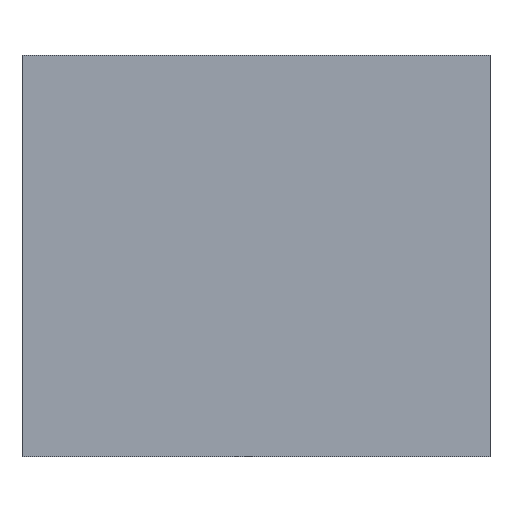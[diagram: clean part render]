
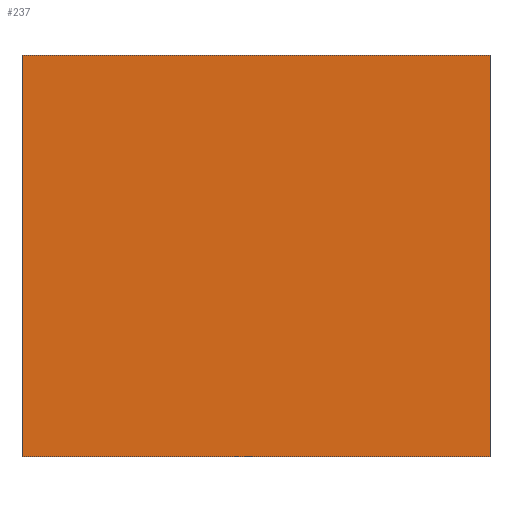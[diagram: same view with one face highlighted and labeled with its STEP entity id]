
A CAD part, front view. The second image highlights one B-rep face of the part: STEP entity #237.
In plain terms, the highlighted planar face has unit normal (0, -1, 0).
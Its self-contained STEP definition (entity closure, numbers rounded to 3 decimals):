
#21 = EDGE_CURVE('',#22,#24,#26,.T.);
#22 = VERTEX_POINT('',#23);
#23 = CARTESIAN_POINT('',(-35.,-24.,270.));
#24 = VERTEX_POINT('',#25);
#25 = CARTESIAN_POINT('',(-35.,-24.,330.));
#26 = SURFACE_CURVE('',#27,(#31,#43),.PCURVE_S1.);
#27 = LINE('',#28,#29);
#28 = CARTESIAN_POINT('',(-35.,-24.,270.));
#29 = VECTOR('',#30,1.);
#30 = DIRECTION('',(0.,0.,1.));
#31 = PCURVE('',#32,#37);
#32 = PLANE('',#33);
#33 = AXIS2_PLACEMENT_3D('',#34,#35,#36);
#34 = CARTESIAN_POINT('',(-35.,-24.,270.));
#35 = DIRECTION('',(1.,0.,0.));
#36 = DIRECTION('',(0.,0.,1.));
#37 = DEFINITIONAL_REPRESENTATION('',(#38),#42);
#38 = LINE('',#39,#40);
#39 = CARTESIAN_POINT('',(0.,0.));
#40 = VECTOR('',#41,1.);
#41 = DIRECTION('',(1.,0.));
#42 = ( GEOMETRIC_REPRESENTATION_CONTEXT(2) 
PARAMETRIC_REPRESENTATION_CONTEXT() REPRESENTATION_CONTEXT('2D SPACE',''
  ) );
#43 = PCURVE('',#44,#49);
#44 = PLANE('',#45);
#45 = AXIS2_PLACEMENT_3D('',#46,#47,#48);
#46 = CARTESIAN_POINT('',(-35.,-24.,270.));
#47 = DIRECTION('',(0.,1.,0.));
#48 = DIRECTION('',(0.,0.,1.));
#49 = DEFINITIONAL_REPRESENTATION('',(#50),#54);
#50 = LINE('',#51,#52);
#51 = CARTESIAN_POINT('',(0.,0.));
#52 = VECTOR('',#53,1.);
#53 = DIRECTION('',(1.,0.));
#54 = ( GEOMETRIC_REPRESENTATION_CONTEXT(2) 
PARAMETRIC_REPRESENTATION_CONTEXT() REPRESENTATION_CONTEXT('2D SPACE',''
  ) );
#72 = PLANE('',#73);
#73 = AXIS2_PLACEMENT_3D('',#74,#75,#76);
#74 = CARTESIAN_POINT('',(-35.,-24.,270.));
#75 = DIRECTION('',(0.,0.,1.));
#76 = DIRECTION('',(1.,0.,0.));
#126 = PLANE('',#127);
#127 = AXIS2_PLACEMENT_3D('',#128,#129,#130);
#128 = CARTESIAN_POINT('',(-35.,-24.,330.));
#129 = DIRECTION('',(0.,0.,1.));
#130 = DIRECTION('',(1.,0.,0.));
#141 = EDGE_CURVE('',#142,#144,#146,.T.);
#142 = VERTEX_POINT('',#143);
#143 = CARTESIAN_POINT('',(35.,-24.,270.));
#144 = VERTEX_POINT('',#145);
#145 = CARTESIAN_POINT('',(35.,-24.,330.));
#146 = SURFACE_CURVE('',#147,(#151,#163),.PCURVE_S1.);
#147 = LINE('',#148,#149);
#148 = CARTESIAN_POINT('',(35.,-24.,270.));
#149 = VECTOR('',#150,1.);
#150 = DIRECTION('',(0.,0.,1.));
#151 = PCURVE('',#152,#157);
#152 = PLANE('',#153);
#153 = AXIS2_PLACEMENT_3D('',#154,#155,#156);
#154 = CARTESIAN_POINT('',(35.,-24.,270.));
#155 = DIRECTION('',(1.,0.,0.));
#156 = DIRECTION('',(0.,0.,1.));
#157 = DEFINITIONAL_REPRESENTATION('',(#158),#162);
#158 = LINE('',#159,#160);
#159 = CARTESIAN_POINT('',(0.,0.));
#160 = VECTOR('',#161,1.);
#161 = DIRECTION('',(1.,0.));
#162 = ( GEOMETRIC_REPRESENTATION_CONTEXT(2) 
PARAMETRIC_REPRESENTATION_CONTEXT() REPRESENTATION_CONTEXT('2D SPACE',''
  ) );
#163 = PCURVE('',#44,#164);
#164 = DEFINITIONAL_REPRESENTATION('',(#165),#169);
#165 = LINE('',#166,#167);
#166 = CARTESIAN_POINT('',(0.,70.));
#167 = VECTOR('',#168,1.);
#168 = DIRECTION('',(1.,0.));
#169 = ( GEOMETRIC_REPRESENTATION_CONTEXT(2) 
PARAMETRIC_REPRESENTATION_CONTEXT() REPRESENTATION_CONTEXT('2D SPACE',''
  ) );
#237 = ADVANCED_FACE('',(#238),#44,.F.);
#238 = FACE_BOUND('',#239,.F.);
#239 = EDGE_LOOP('',(#240,#261,#262,#283));
#240 = ORIENTED_EDGE('',*,*,#241,.F.);
#241 = EDGE_CURVE('',#22,#142,#242,.T.);
#242 = SURFACE_CURVE('',#243,(#247,#254),.PCURVE_S1.);
#243 = LINE('',#244,#245);
#244 = CARTESIAN_POINT('',(-35.,-24.,270.));
#245 = VECTOR('',#246,1.);
#246 = DIRECTION('',(1.,0.,0.));
#247 = PCURVE('',#44,#248);
#248 = DEFINITIONAL_REPRESENTATION('',(#249),#253);
#249 = LINE('',#250,#251);
#250 = CARTESIAN_POINT('',(0.,0.));
#251 = VECTOR('',#252,1.);
#252 = DIRECTION('',(0.,1.));
#253 = ( GEOMETRIC_REPRESENTATION_CONTEXT(2) 
PARAMETRIC_REPRESENTATION_CONTEXT() REPRESENTATION_CONTEXT('2D SPACE',''
  ) );
#254 = PCURVE('',#72,#255);
#255 = DEFINITIONAL_REPRESENTATION('',(#256),#260);
#256 = LINE('',#257,#258);
#257 = CARTESIAN_POINT('',(0.,0.));
#258 = VECTOR('',#259,1.);
#259 = DIRECTION('',(1.,0.));
#260 = ( GEOMETRIC_REPRESENTATION_CONTEXT(2) 
PARAMETRIC_REPRESENTATION_CONTEXT() REPRESENTATION_CONTEXT('2D SPACE',''
  ) );
#261 = ORIENTED_EDGE('',*,*,#21,.T.);
#262 = ORIENTED_EDGE('',*,*,#263,.T.);
#263 = EDGE_CURVE('',#24,#144,#264,.T.);
#264 = SURFACE_CURVE('',#265,(#269,#276),.PCURVE_S1.);
#265 = LINE('',#266,#267);
#266 = CARTESIAN_POINT('',(-35.,-24.,330.));
#267 = VECTOR('',#268,1.);
#268 = DIRECTION('',(1.,0.,0.));
#269 = PCURVE('',#44,#270);
#270 = DEFINITIONAL_REPRESENTATION('',(#271),#275);
#271 = LINE('',#272,#273);
#272 = CARTESIAN_POINT('',(60.,0.));
#273 = VECTOR('',#274,1.);
#274 = DIRECTION('',(0.,1.));
#275 = ( GEOMETRIC_REPRESENTATION_CONTEXT(2) 
PARAMETRIC_REPRESENTATION_CONTEXT() REPRESENTATION_CONTEXT('2D SPACE',''
  ) );
#276 = PCURVE('',#126,#277);
#277 = DEFINITIONAL_REPRESENTATION('',(#278),#282);
#278 = LINE('',#279,#280);
#279 = CARTESIAN_POINT('',(0.,0.));
#280 = VECTOR('',#281,1.);
#281 = DIRECTION('',(1.,0.));
#282 = ( GEOMETRIC_REPRESENTATION_CONTEXT(2) 
PARAMETRIC_REPRESENTATION_CONTEXT() REPRESENTATION_CONTEXT('2D SPACE',''
  ) );
#283 = ORIENTED_EDGE('',*,*,#141,.F.);
